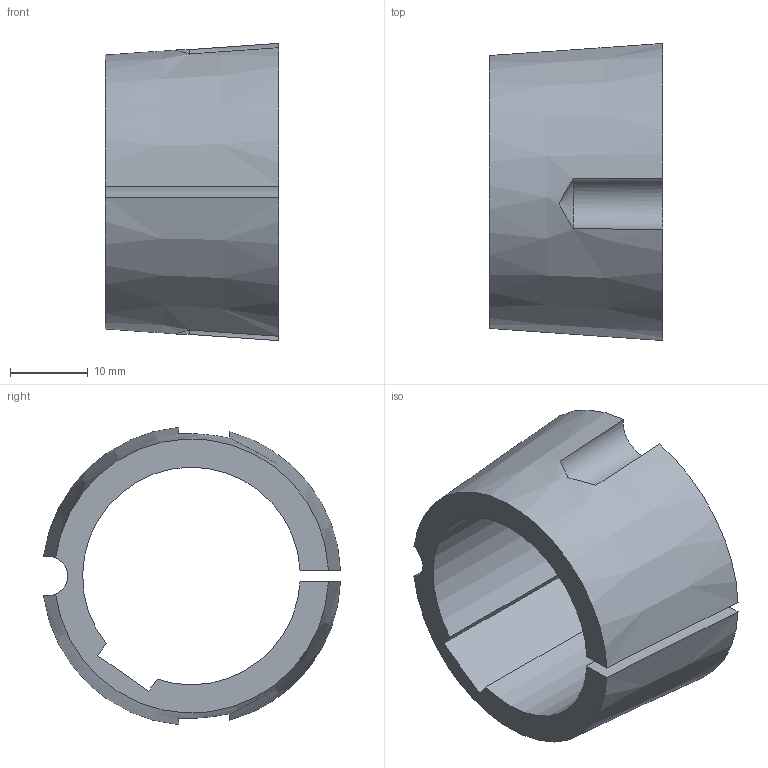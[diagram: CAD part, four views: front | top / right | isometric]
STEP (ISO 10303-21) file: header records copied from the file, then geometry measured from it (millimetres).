
FILE_DESCRIPTION( ( 'STEP AP203' ), '1' );
FILE_NAME( 'D:/export/antriebselemente/spannbuchsen_und_spannsaetze/taper-spannbuchsen_1008_bis_5050/taper-spannbuchsen_62250228Isometric_34.stp', '2018-12-11T11:11:00', ( '' ), ( '' ), ' ', 'PARTsolutions', ' ' );
FILE_SCHEMA( ( 'CONFIG_CONTROL_DESIGN' ) );
Length unit declared in the file: millimetre
Products named in the file (1): _taper-spannbuchsen_62250228
Bounding box: 22.3 x 38.22 x 38.26 mm (x, y, z)
Volume: 8984.5 mm3; surface area: 5730.9 mm2
Topology: 1 solids, 1 shells, 16 faces, 42 edges, 28 vertices
Faces by surface type: plane 7, cylinder 5, cone 4
Entity records: 602 total; most frequent: CARTESIAN_POINT 163, ORIENTED_EDGE 84, DIRECTION 82, EDGE_CURVE 42, AXIS2_PLACEMENT_3D 33, VERTEX_POINT 28, ADVANCED_FACE 16, FACE_OUTER_BOUND 16
